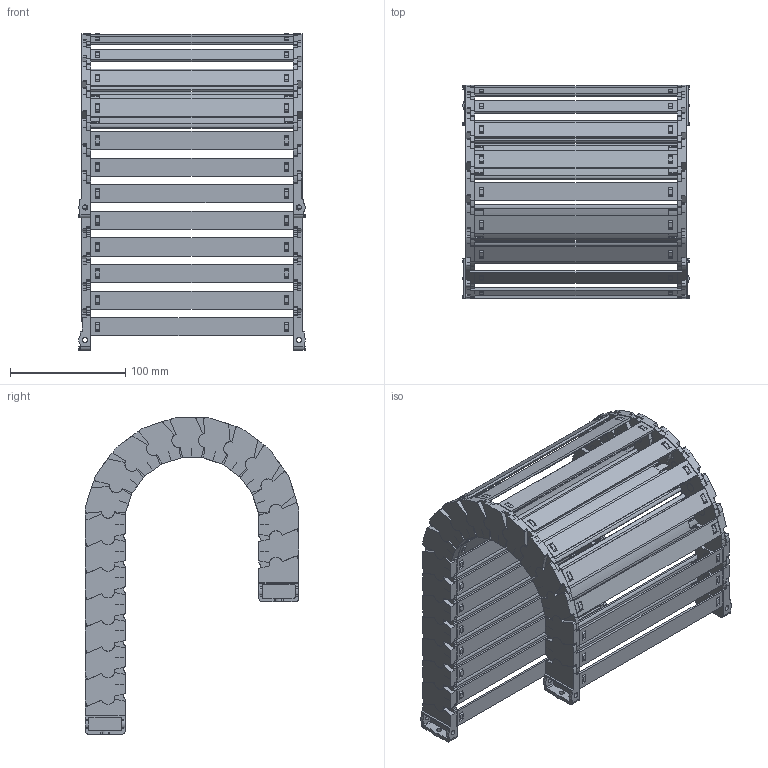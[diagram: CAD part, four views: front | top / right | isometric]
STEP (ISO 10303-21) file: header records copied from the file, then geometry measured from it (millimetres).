
FILE_DESCRIPTION((''),'2;1');
FILE_NAME('JY-25X175-R75_ASM','2026-05-04T14:01:51',('admin'),(''),'CREO PARAMETRIC BY PTC INC, 2021023','CREO PARAMETRIC BY PTC INC, 2021023','');
FILE_SCHEMA(('CONFIG_CONTROL_DESIGN'));
Length unit declared in the file: millimetre
Products named in the file (11): 25XL-L; 25-35XL-YP; 25XL-R; ASM0001_ASM; 25-LTT-A-L; 25-LTT-A-R; 25XL-LTT-A_ASM; 25-LTT-B-L; 25-LTT-B-R; 25XL-LTT-B_ASM; JY-25X175-R75_ASM
Assembly tree (32 placements, depth 3):
  JY-25X175-R75_ASM
    ASM0001_ASM  x18
      25XL-L
      25-35XL-YP
      25XL-R
    25XL-LTT-A_ASM
      25-LTT-A-L
      25-35XL-YP  x2
      25-LTT-A-R
    25XL-LTT-B_ASM
      25-LTT-B-L
      25-35XL-YP  x2
      25-LTT-B-R
Bounding box: 196.68 x 185.54 x 275.02 mm (x, y, z)
Volume: 586344.8 mm3; surface area: 426215.9 mm2
Topology: 80 solids, 98 shells, 4162 faces, 12432 edges, 8410 vertices
Faces by surface type: plane 3064, cylinder 1062, cone 36
Entity records: 17435 total; most frequent: CARTESIAN_POINT 3070, DIRECTION 3015, ORIENTED_EDGE 2962, EDGE_CURVE 1483, VECTOR 1053, LINE 1053, VERTEX_POINT 1004, AXIS2_PLACEMENT_3D 981
